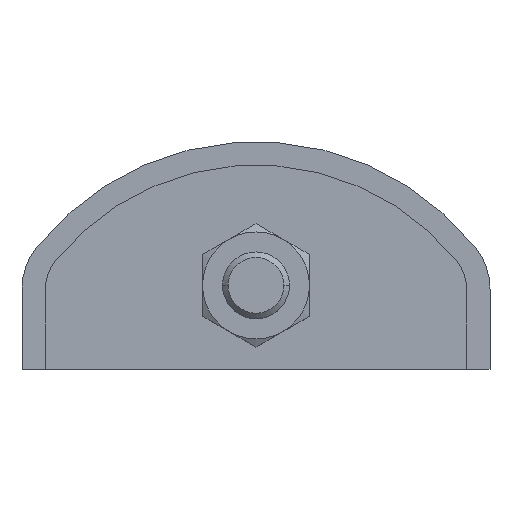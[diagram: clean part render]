
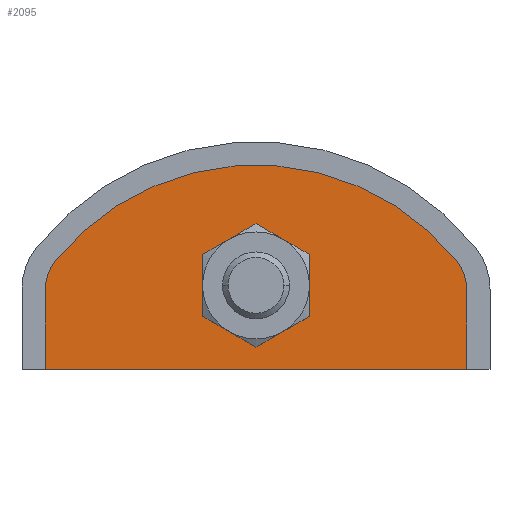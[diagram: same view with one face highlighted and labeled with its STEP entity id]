
A CAD part, top view. The second image highlights one B-rep face of the part: STEP entity #2095.
In plain terms, the highlighted planar face has unit normal (0, 0, 1).
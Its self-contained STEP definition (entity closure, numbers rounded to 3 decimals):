
#66 = DIRECTION ( 'NONE',  ( 1., 0., 0. ) ) ;
#93 = CARTESIAN_POINT ( 'NONE',  ( 0., -13.987, 10. ) ) ;
#103 = VECTOR ( 'NONE', #2320, 1000. ) ;
#115 = ORIENTED_EDGE ( 'NONE', *, *, #1343, .F. ) ;
#190 = VERTEX_POINT ( 'NONE', #1221 ) ;
#191 = EDGE_CURVE ( 'NONE', #512, #2181, #2030, .T. ) ;
#252 = DIRECTION ( 'NONE',  ( 0., 0., 1. ) ) ;
#282 = AXIS2_PLACEMENT_3D ( 'NONE', #93, #1733, #1953 ) ;
#322 = CIRCLE ( 'NONE', #282, 38.5 ) ;
#364 = ORIENTED_EDGE ( 'NONE', *, *, #1398, .T. ) ;
#384 = EDGE_CURVE ( 'NONE', #190, #1784, #922, .T. ) ;
#512 = VERTEX_POINT ( 'NONE', #746 ) ;
#545 = LINE ( 'NONE', #2769, #103 ) ;
#548 = AXIS2_PLACEMENT_3D ( 'NONE', #2592, #1156, #1404 ) ;
#573 = CARTESIAN_POINT ( 'NONE',  ( -25., 5.987, 10. ) ) ;
#631 = AXIS2_PLACEMENT_3D ( 'NONE', #2894, #252, #1917 ) ;
#652 = FACE_BOUND ( 'NONE', #1242, .T. ) ;
#664 = CARTESIAN_POINT ( 'NONE',  ( -31.5, 5.987, 10. ) ) ;
#746 = CARTESIAN_POINT ( 'NONE',  ( -7.55, 6.513, 10. ) ) ;
#772 = DIRECTION ( 'NONE',  ( 1., 0., 0. ) ) ;
#846 = EDGE_CURVE ( 'NONE', #2573, #1968, #1921, .T. ) ;
#855 = DIRECTION ( 'NONE',  ( 0., 0., 1. ) ) ;
#922 = LINE ( 'NONE', #1962, #2245 ) ;
#939 = ORIENTED_EDGE ( 'NONE', *, *, #1147, .T. ) ;
#945 = AXIS2_PLACEMENT_3D ( 'NONE', #573, #1565, #1552 ) ;
#956 = CARTESIAN_POINT ( 'NONE',  ( -30.078, 10.045, 10. ) ) ;
#1000 = CARTESIAN_POINT ( 'NONE',  ( 7.55, 6.513, 10. ) ) ;
#1091 = ORIENTED_EDGE ( 'NONE', *, *, #2802, .T. ) ;
#1142 = ORIENTED_EDGE ( 'NONE', *, *, #384, .T. ) ;
#1147 = EDGE_CURVE ( 'NONE', #2760, #2573, #322, .T. ) ;
#1156 = DIRECTION ( 'NONE',  ( 0., 0., 1. ) ) ;
#1181 = CIRCLE ( 'NONE', #2582, 7.55 ) ;
#1221 = CARTESIAN_POINT ( 'NONE',  ( -31.5, -5.987, 10. ) ) ;
#1242 = EDGE_LOOP ( 'NONE', ( #115, #2249 ) ) ;
#1289 = DIRECTION ( 'NONE',  ( 1., 0., 0. ) ) ;
#1300 = VERTEX_POINT ( 'NONE', #2515 ) ;
#1343 = EDGE_CURVE ( 'NONE', #2181, #512, #1181, .T. ) ;
#1378 = DIRECTION ( 'NONE',  ( 0., -1., 0. ) ) ;
#1398 = EDGE_CURVE ( 'NONE', #1784, #1300, #545, .T. ) ;
#1404 = DIRECTION ( 'NONE',  ( 1., 0., 0. ) ) ;
#1456 = CIRCLE ( 'NONE', #631, 6.5 ) ;
#1552 = DIRECTION ( 'NONE',  ( -1., 0., 0. ) ) ;
#1565 = DIRECTION ( 'NONE',  ( 0., 0., 1. ) ) ;
#1633 = EDGE_CURVE ( 'NONE', #1300, #2760, #1456, .T. ) ;
#1700 = CARTESIAN_POINT ( 'NONE',  ( 0., 6.513, 10. ) ) ;
#1733 = DIRECTION ( 'NONE',  ( 0., 0., 1. ) ) ;
#1784 = VERTEX_POINT ( 'NONE', #1898 ) ;
#1805 = FACE_OUTER_BOUND ( 'NONE', #2040, .T. ) ;
#1835 = CARTESIAN_POINT ( 'NONE',  ( -31.5, -5.987, 10. ) ) ;
#1892 = ORIENTED_EDGE ( 'NONE', *, *, #846, .T. ) ;
#1898 = CARTESIAN_POINT ( 'NONE',  ( 31.5, -5.987, 10. ) ) ;
#1915 = DIRECTION ( 'NONE',  ( 0., 0., 1. ) ) ;
#1917 = DIRECTION ( 'NONE',  ( -1., 0., 0. ) ) ;
#1921 = CIRCLE ( 'NONE', #945, 6.5 ) ;
#1953 = DIRECTION ( 'NONE',  ( -1., 0., 0. ) ) ;
#1962 = CARTESIAN_POINT ( 'NONE',  ( -35., -5.987, 10. ) ) ;
#1968 = VERTEX_POINT ( 'NONE', #664 ) ;
#2030 = CIRCLE ( 'NONE', #2969, 7.55 ) ;
#2040 = EDGE_LOOP ( 'NONE', ( #1142, #364, #2472, #939, #1892, #1091 ) ) ;
#2095 = ADVANCED_FACE ( 'NONE', ( #652, #1805 ), #2274, .T. ) ;
#2181 = VERTEX_POINT ( 'NONE', #1000 ) ;
#2245 = VECTOR ( 'NONE', #66, 1000. ) ;
#2249 = ORIENTED_EDGE ( 'NONE', *, *, #191, .F. ) ;
#2274 = PLANE ( 'NONE',  #548 ) ;
#2320 = DIRECTION ( 'NONE',  ( 0., 1., 0. ) ) ;
#2472 = ORIENTED_EDGE ( 'NONE', *, *, #1633, .T. ) ;
#2515 = CARTESIAN_POINT ( 'NONE',  ( 31.5, 5.987, 10. ) ) ;
#2546 = LINE ( 'NONE', #1835, #3035 ) ;
#2564 = CARTESIAN_POINT ( 'NONE',  ( 30.078, 10.045, 10. ) ) ;
#2573 = VERTEX_POINT ( 'NONE', #956 ) ;
#2582 = AXIS2_PLACEMENT_3D ( 'NONE', #3000, #855, #1289 ) ;
#2592 = CARTESIAN_POINT ( 'NONE',  ( 25., 5.987, 10. ) ) ;
#2760 = VERTEX_POINT ( 'NONE', #2564 ) ;
#2769 = CARTESIAN_POINT ( 'NONE',  ( 31.5, 5.987, 10. ) ) ;
#2802 = EDGE_CURVE ( 'NONE', #1968, #190, #2546, .T. ) ;
#2894 = CARTESIAN_POINT ( 'NONE',  ( 25., 5.987, 10. ) ) ;
#2969 = AXIS2_PLACEMENT_3D ( 'NONE', #1700, #1915, #772 ) ;
#3000 = CARTESIAN_POINT ( 'NONE',  ( 0., 6.513, 10. ) ) ;
#3035 = VECTOR ( 'NONE', #1378, 1000. ) ;
